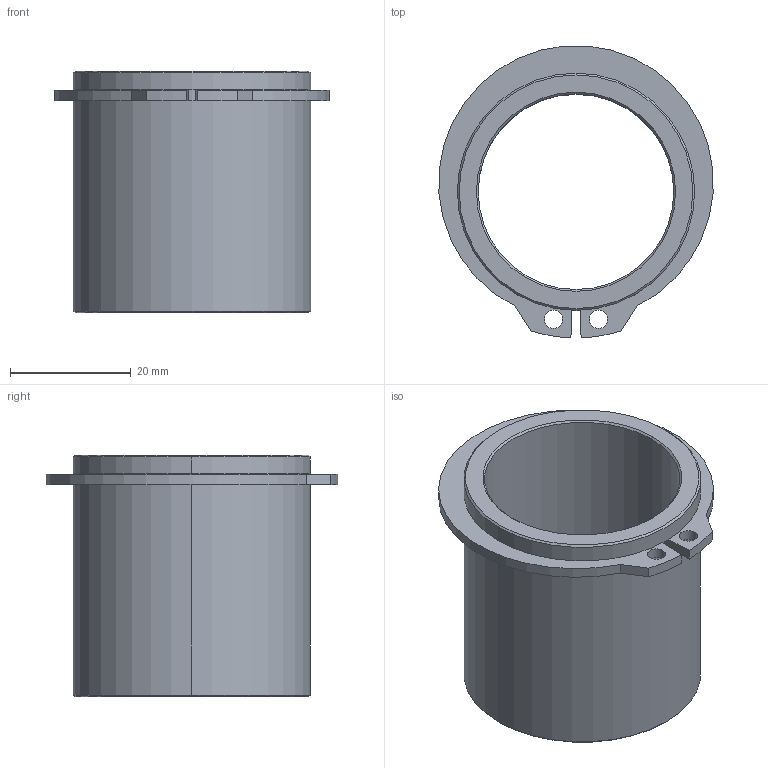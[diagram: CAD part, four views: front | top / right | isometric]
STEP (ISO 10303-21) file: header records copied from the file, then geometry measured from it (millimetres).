
FILE_DESCRIPTION((''),'2;1');
FILE_NAME('C13_032_040.stp','2008-12-17T15:08:14',(''),(''),'Mechanical Desktop 2009','Mechanical Desktop 2009',', , ');
FILE_SCHEMA(('CONFIG_CONTROL_DESIGN'));
Length unit declared in the file: millimetre
Products named in the file (2): Product; blmdl1
Assembly tree (1 placements, depth 2):
  Product
    blmdl1
Bounding box: 45.34 x 48.28 x 40 mm (x, y, z)
Volume: 16263.7 mm3; surface area: 11529.7 mm2
Topology: 2 solids, 2 shells, 34 faces, 76 edges, 48 vertices
Faces by surface type: cylinder 16, plane 10, cone 8
Entity records: 1075 total; most frequent: DIRECTION 188, CARTESIAN_POINT 160, ORIENTED_EDGE 152, AXIS2_PLACEMENT_3D 76, EDGE_CURVE 76, VERTEX_POINT 48, EDGE_LOOP 42, CIRCLE 40
